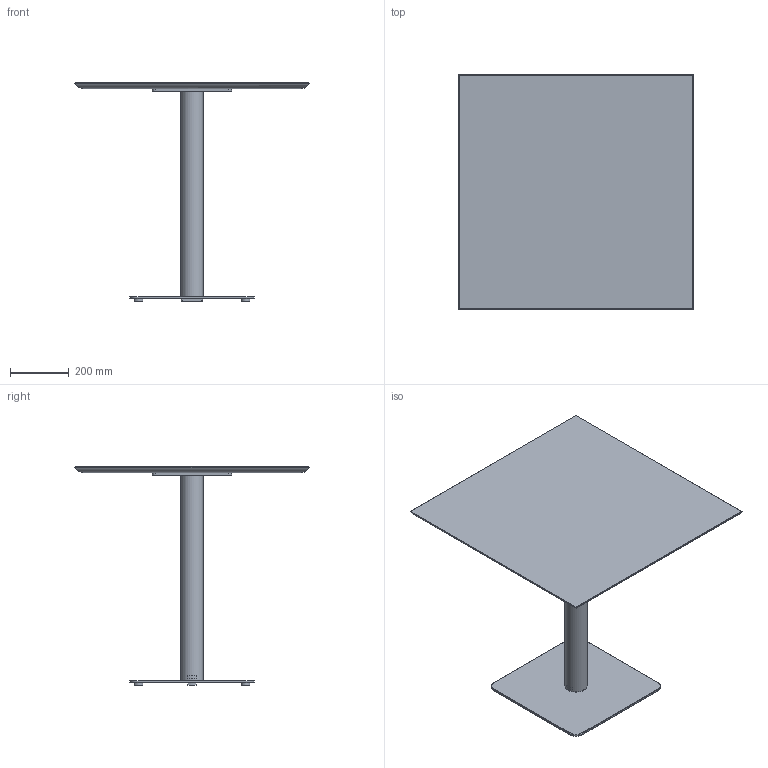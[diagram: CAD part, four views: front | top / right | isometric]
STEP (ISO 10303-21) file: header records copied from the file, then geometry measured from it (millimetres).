
FILE_DESCRIPTION( ('This file contains a STEP AP42 implementation' ,'as created by ZW3D STEP Interface translator.') ,'2;1' );
FILE_NAME( 'Henri - B_Carré - F4 - M3 - 800 x 800 x 750.stp' ,'24 912.172913', (''), ('ZWCAD Software Co.'), 'Version 1.0', 'ZW3D to STEP translator', '' );
FILE_SCHEMA(('AUTOMOTIVE_DESIGN { 1 0 10303 214 1 1 1 1 }'));
Length unit declared in the file: millimetre
Products named in the file (14): 0; PIED BISTROT PARAMETRIQUE_; COLONNE ACIER Ø76 V.02_; TUB-D076-02_; PLA-R76B-01_; CROIX ACIER 370 V.02_; CRX-X370-02_; SOCLE ACIER L 425x425 V.02_; SCL-R425-02_; PLA-R30A-01_; PLA-R30A-01; WUERTH 0276063020 Euro-screw 6.3x2 Verzinkt_; PLATEAU BISTROT PARAMETRIQUE_; insert_m6_13_
Assembly tree (22 placements, depth 3):
  0
  PIED BISTROT PARAMETRIQUE_
    COLONNE ACIER Ø76 V.02_
      TUB-D076-02_
      PLA-R76B-01_  x2
    CROIX ACIER 370 V.02_
      CRX-X370-02_
    SOCLE ACIER L 425x425 V.02_
      SCL-R425-02_
      PLA-R30A-01_
      PLA-R30A-01  x3
    WUERTH 0276063020 Euro-screw 6.3x2 Verzinkt_
    PLATEAU BISTROT PARAMETRIQUE_
      insert_m6_13_  x8
Bounding box: 800 x 800 x 744 mm (x, y, z)
Volume: 14688215.3 mm3; surface area: 2198204.2 mm2
Topology: 19 solids, 19 shells, 533 faces, 1306 edges, 818 vertices
Faces by surface type: plane 258, bspline 125, cylinder 102, cone 47, torus 1
Full cylindrical faces by diameter (mm): 4.88 x1, 6 x8, 6.3 x1, 8 x45, 12 x2, 14 x2, 30 x4, 72 x1, 76 x1
Entity records: 12234 total; most frequent: CARTESIAN_POINT 3472, ORIENTED_EDGE 1608, DIRECTION 1463, EDGE_CURVE 804, VERTEX_POINT 514, VECTOR 505, LINE 505, AXIS2_PLACEMENT_3D 479
